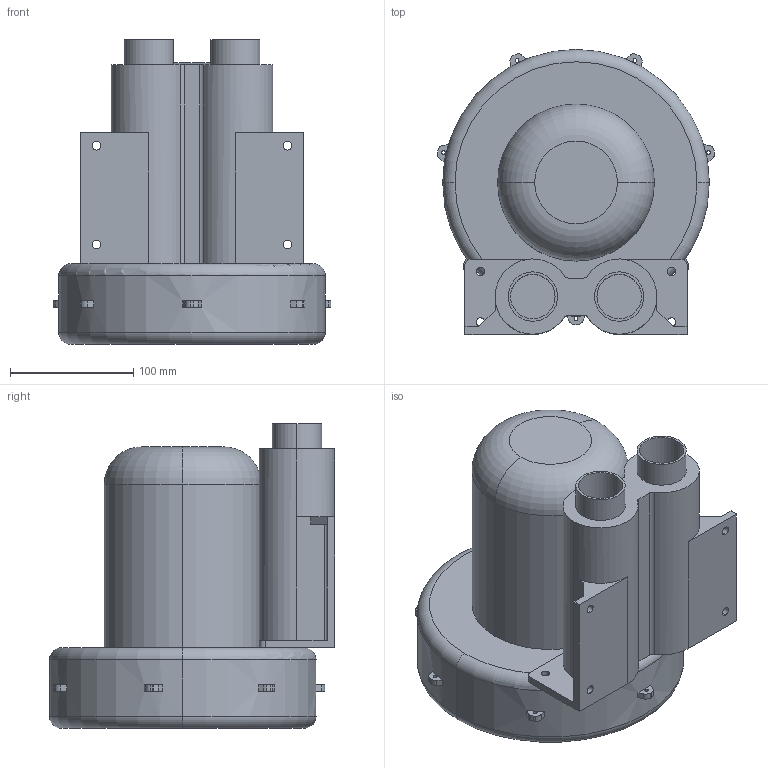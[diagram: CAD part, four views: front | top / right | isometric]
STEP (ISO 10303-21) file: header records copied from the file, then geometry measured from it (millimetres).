
FILE_DESCRIPTION (( 'STEP AP203' ), '1' );
FILE_NAME ('200.STEP', '2019-05-09T03:42:47', ( 'User' ), ( 'www.dadighost.com' ), 'SwSTEP 2.0', 'SolidWorks 2014', '' );
FILE_SCHEMA (( 'CONFIG_CONTROL_DESIGN' ));
Length unit declared in the file: millimetre
Products named in the file (1): 200
Bounding box: 224.84 x 231 x 247 mm (x, y, z)
Volume: 5188324 mm3; surface area: 296864.3 mm2
Topology: 1 solids, 1 shells, 140 faces, 369 edges, 243 vertices
Faces by surface type: cylinder 70, plane 64, torus 6
Entity records: 4531 total; most frequent: DIRECTION 824, CARTESIAN_POINT 753, ORIENTED_EDGE 738, EDGE_CURVE 369, AXIS2_PLACEMENT_3D 314, VERTEX_POINT 243, LINE 196, VECTOR 196
